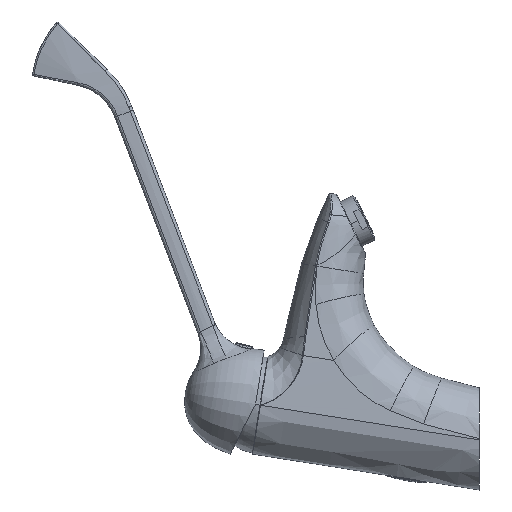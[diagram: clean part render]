
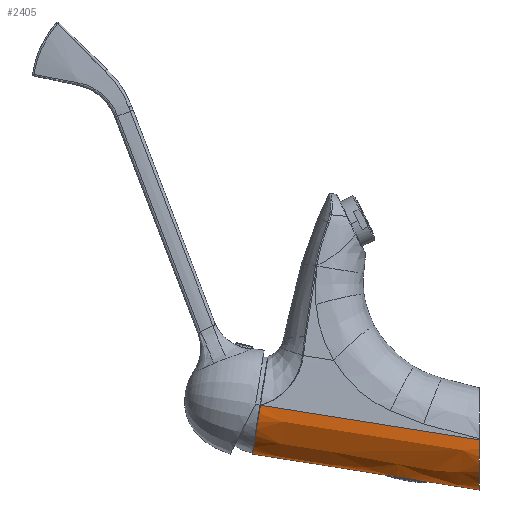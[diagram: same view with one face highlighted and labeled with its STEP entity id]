
A CAD part, left-side view. The second image highlights one B-rep face of the part: STEP entity #2405.
In plain terms, the highlighted free-form (B-spline) face has degree [3, 3] with [8, 7] control points.
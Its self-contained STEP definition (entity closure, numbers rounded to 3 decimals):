
#9=CARTESIAN_POINT('',(-24.,106.373,15.887));
#10=CARTESIAN_POINT('',(-24.,106.7,13.818));
#11=CARTESIAN_POINT('',(-23.178,107.683,7.613));
#12=CARTESIAN_POINT('',(-17.766,109.152,-1.66));
#13=CARTESIAN_POINT('',(-8.378,109.999,-7.005));
#14=CARTESIAN_POINT('',(-2.094,110.127,-7.818));
#15=CARTESIAN_POINT('',(0.,110.127,-7.818));
#96=CARTESIAN_POINT('',(-24.,0.,-0.961));
#98=DIRECTION('',(0.,0.988,0.156));
#99=VECTOR('',#98,107.699);
#100=CARTESIAN_POINT('',(-24.,0.,-0.961));
#101=LINE('',#100,#99);
#362=CARTESIAN_POINT('',(0.,28.322,-20.774));
#363=CARTESIAN_POINT('',(-0.153,28.322,
-20.774));
#364=CARTESIAN_POINT('',(-0.452,28.376,
-20.763));
#365=CARTESIAN_POINT('',(-0.884,28.611,
-20.713));
#366=CARTESIAN_POINT('',(-1.275,28.976,-20.637));
#367=CARTESIAN_POINT('',(-1.628,29.458,-20.539));
#368=CARTESIAN_POINT('',(-1.935,30.039,-20.424));
#369=CARTESIAN_POINT('',(-2.187,30.683,-20.3));
#370=CARTESIAN_POINT('',(-2.387,31.366,-20.172));
#371=CARTESIAN_POINT('',(-2.543,32.09,-20.041));
#372=CARTESIAN_POINT('',(-2.655,32.846,-19.909));
#373=CARTESIAN_POINT('',(-2.725,33.624,-19.777));
#374=CARTESIAN_POINT('',(-2.755,34.416,-19.649));
#375=CARTESIAN_POINT('',(-2.746,35.211,-19.524));
#376=CARTESIAN_POINT('',(-2.699,36.001,-19.404));
#377=CARTESIAN_POINT('',(-2.615,36.776,-19.291));
#378=CARTESIAN_POINT('',(-2.497,37.527,-19.185));
#379=CARTESIAN_POINT('',(-2.345,38.243,-19.087));
#380=CARTESIAN_POINT('',(-2.162,38.921,-18.997));
#381=CARTESIAN_POINT('',(-1.946,39.554,-18.916));
#382=CARTESIAN_POINT('',(-1.702,40.124,-18.844));
#383=CARTESIAN_POINT('',(-1.434,40.617,-18.784));
#384=CARTESIAN_POINT('',(-1.13,41.046,-18.733));
#385=CARTESIAN_POINT('',(-0.794,41.384,
-18.693));
#386=CARTESIAN_POINT('',(-0.427,41.614,
-18.666));
#387=CARTESIAN_POINT('',(-0.147,41.678,
-18.659));
#388=CARTESIAN_POINT('',(0.,41.678,-18.659));
#390=DIRECTION('',(0.,-0.988,-0.156));
#391=VECTOR('',#390,69.303);
#392=CARTESIAN_POINT('',(0.,110.127,-7.818));
#393=LINE('',#392,#391);
#394=CARTESIAN_POINT('',(-24.,0.,-0.961));
#395=CARTESIAN_POINT('',(-24.,0.,-2.125));
#396=CARTESIAN_POINT('',(-23.837,0.,-4.425));
#397=CARTESIAN_POINT('',(-23.11,0.,-7.819));
#398=CARTESIAN_POINT('',(-21.905,0.,-11.074));
#399=CARTESIAN_POINT('',(-20.268,0.,-14.116));
#400=CARTESIAN_POINT('',(-18.212,0.,-16.912));
#401=CARTESIAN_POINT('',(-15.795,0.,-19.365));
#402=CARTESIAN_POINT('',(-13.038,0.,-21.452));
#403=CARTESIAN_POINT('',(-10.03,0.,-23.12));
#404=CARTESIAN_POINT('',(-6.802,0.,-24.351));
#405=CARTESIAN_POINT('',(-3.432,0.,-25.094));
#406=CARTESIAN_POINT('',(-1.153,0.,-25.26));
#407=CARTESIAN_POINT('',(0.,0.,-25.26));
#409=DIRECTION('',(0.,-0.988,-0.156));
#410=VECTOR('',#409,28.675);
#411=CARTESIAN_POINT('',(0.,28.322,-20.774));
#412=LINE('',#411,#410);
#1456=VERTEX_POINT('',#96);
#1457=CARTESIAN_POINT('',(-24.,106.373,15.887));
#1458=VERTEX_POINT('',#1457);
#1479=VERTEX_POINT('',#15);
#1480=VERTEX_POINT('',#407);
#1530=VERTEX_POINT('',#388);
#1531=VERTEX_POINT('',#362);
#2338=CARTESIAN_POINT('',(0.754,-2.204,
-25.597));
#2339=CARTESIAN_POINT('',(-1.591,-2.193,
-25.67));
#2340=CARTESIAN_POINT('',(-8.152,-2.311,
-24.925));
#2341=CARTESIAN_POINT('',(-17.766,-3.178,
-19.451));
#2342=CARTESIAN_POINT('',(-23.307,-4.682,
-9.956));
#2343=CARTESIAN_POINT('',(-24.062,-5.708,
-3.475));
#2344=CARTESIAN_POINT('',(-23.988,-6.075,
-1.16));
#2345=CARTESIAN_POINT('',(0.754,2.17,
-24.904));
#2346=CARTESIAN_POINT('',(-1.591,2.181,
-24.977));
#2347=CARTESIAN_POINT('',(-8.152,2.063,
-24.232));
#2348=CARTESIAN_POINT('',(-17.766,1.196,
-18.759));
#2349=CARTESIAN_POINT('',(-23.307,-0.308,
-9.263));
#2350=CARTESIAN_POINT('',(-24.062,-1.334,
-2.783));
#2351=CARTESIAN_POINT('',(-23.988,-1.701,
-0.467));
#2352=CARTESIAN_POINT('',(0.754,14.811,
-22.902));
#2353=CARTESIAN_POINT('',(-1.591,14.822,
-22.975));
#2354=CARTESIAN_POINT('',(-8.152,14.704,
-22.23));
#2355=CARTESIAN_POINT('',(-17.766,13.838,
-16.756));
#2356=CARTESIAN_POINT('',(-23.307,12.334,
-7.261));
#2357=CARTESIAN_POINT('',(-24.062,11.307,
-0.78));
#2358=CARTESIAN_POINT('',(-23.988,10.94,1.535));
#2359=CARTESIAN_POINT('',(0.754,39.853,
-18.936));
#2360=CARTESIAN_POINT('',(-1.591,39.865,
-19.009));
#2361=CARTESIAN_POINT('',(-8.152,39.747,
-18.263));
#2362=CARTESIAN_POINT('',(-17.766,38.88,
-12.79));
#2363=CARTESIAN_POINT('',(-23.307,37.376,
-3.295));
#2364=CARTESIAN_POINT('',(-24.062,36.349,3.186));
#2365=CARTESIAN_POINT('',(-23.988,35.983,5.501));
#2366=CARTESIAN_POINT('',(0.754,68.789,
-14.353));
#2367=CARTESIAN_POINT('',(-1.591,68.8,
-14.426));
#2368=CARTESIAN_POINT('',(-8.152,68.682,
-13.681));
#2369=CARTESIAN_POINT('',(-17.766,67.815,
-8.207));
#2370=CARTESIAN_POINT('',(-23.307,66.312,1.288));
#2371=CARTESIAN_POINT('',(-24.062,65.285,7.769));
#2372=CARTESIAN_POINT('',(-23.988,64.918,10.084));
#2373=CARTESIAN_POINT('',(0.754,94.325,
-10.308));
#2374=CARTESIAN_POINT('',(-1.591,94.336,
-10.381));
#2375=CARTESIAN_POINT('',(-8.152,94.218,
-9.636));
#2376=CARTESIAN_POINT('',(-17.766,93.352,
-4.163));
#2377=CARTESIAN_POINT('',(-23.307,91.848,5.333));
#2378=CARTESIAN_POINT('',(-24.062,90.821,11.813));
#2379=CARTESIAN_POINT('',(-23.988,90.454,14.129));
#2380=CARTESIAN_POINT('',(0.754,107.46,
-8.228));
#2381=CARTESIAN_POINT('',(-1.591,107.472,
-8.301));
#2382=CARTESIAN_POINT('',(-8.152,107.354,
-7.556));
#2383=CARTESIAN_POINT('',(-17.766,106.487,
-2.082));
#2384=CARTESIAN_POINT('',(-23.307,104.983,7.413));
#2385=CARTESIAN_POINT('',(-24.062,103.956,13.894));
#2386=CARTESIAN_POINT('',(-23.988,103.59,16.209));
#2387=CARTESIAN_POINT('',(0.754,112.328,
-7.457));
#2388=CARTESIAN_POINT('',(-1.591,112.339,
-7.53));
#2389=CARTESIAN_POINT('',(-8.152,112.221,
-6.785));
#2390=CARTESIAN_POINT('',(-17.766,111.355,
-1.311));
#2391=CARTESIAN_POINT('',(-23.307,109.851,8.184));
#2392=CARTESIAN_POINT('',(-24.062,108.824,14.665));
#2393=CARTESIAN_POINT('',(-23.988,108.457,16.98));
#2394=B_SPLINE_SURFACE_WITH_KNOTS('',3,3,((#2338,#2339,#2340,#2341,#2342,#2343,
#2344),(#2345,#2346,#2347,#2348,#2349,#2350,#2351),(#2352,#2353,#2354,#2355,
#2356,#2357,#2358),(#2359,#2360,#2361,#2362,#2363,#2364,#2365),(#2366,#2367,
#2368,#2369,#2370,#2371,#2372),(#2373,#2374,#2375,#2376,#2377,#2378,#2379),(
#2380,#2381,#2382,#2383,#2384,#2385,#2386),(#2387,#2388,#2389,#2390,#2391,#2392,
#2393)),.UNSPECIFIED.,.F.,.F.,.F.,(4,1,1,1,1,4),(4,1,1,1,4),(-0.006,
0.111,0.333,0.667,0.889,
1.02),(-0.02,0.167,0.5,0.833,
1.02),.UNSPECIFIED.);
#2396=ORIENTED_EDGE('',*,*,#2395,.T.);
#2397=ORIENTED_EDGE('',*,*,#2333,.F.);
#2398=ORIENTED_EDGE('',*,*,#1539,.F.);
#2399=ORIENTED_EDGE('',*,*,#1693,.F.);
#2401=ORIENTED_EDGE('',*,*,#2400,.T.);
#2402=ORIENTED_EDGE('',*,*,#2327,.F.);
#2403=EDGE_LOOP('',(#2396,#2397,#2398,#2399,#2401,#2402));
#2404=FACE_OUTER_BOUND('',#2403,.F.);
#2405=ADVANCED_FACE('',(#2404),#2394,.F.);
#16=B_SPLINE_CURVE_WITH_KNOTS('',3,(#9,#10,#11,#12,#13,#14,#15),.UNSPECIFIED.,
.F.,.F.,(4,1,1,1,4),(0.,0.167,0.5,0.833,1.),
.UNSPECIFIED.);
#389=B_SPLINE_CURVE_WITH_KNOTS('',3,(#362,#363,#364,#365,#366,#367,#368,#369,
#370,#371,#372,#373,#374,#375,#376,#377,#378,#379,#380,#381,#382,#383,#384,#385,
#386,#387,#388),.UNSPECIFIED.,.F.,.F.,(4,1,1,1,1,1,1,1,1,1,1,1,1,1,1,1,1,1,1,1,
1,1,1,1,4),(0.,0.042,0.083,0.125,0.167,
0.208,0.25,0.292,0.333,0.375,
0.417,0.458,0.5,0.542,0.583,
0.625,0.667,0.708,0.75,0.792,
0.833,0.875,0.917,0.958,1.),
.UNSPECIFIED.);
#408=B_SPLINE_CURVE_WITH_KNOTS('',3,(#394,#395,#396,#397,#398,#399,#400,#401,
#402,#403,#404,#405,#406,#407),.UNSPECIFIED.,.F.,.F.,(4,1,1,1,1,1,1,1,1,1,1,4),(
0.,0.091,0.182,0.273,0.364,
0.455,0.545,0.636,0.727,
0.818,0.909,1.),.UNSPECIFIED.);
#1539=EDGE_CURVE('',#1458,#1479,#16,.T.);
#1693=EDGE_CURVE('',#1456,#1458,#101,.T.);
#2327=EDGE_CURVE('',#1531,#1480,#412,.T.);
#2333=EDGE_CURVE('',#1479,#1530,#393,.T.);
#2395=EDGE_CURVE('',#1531,#1530,#389,.T.);
#2400=EDGE_CURVE('',#1456,#1480,#408,.T.);
